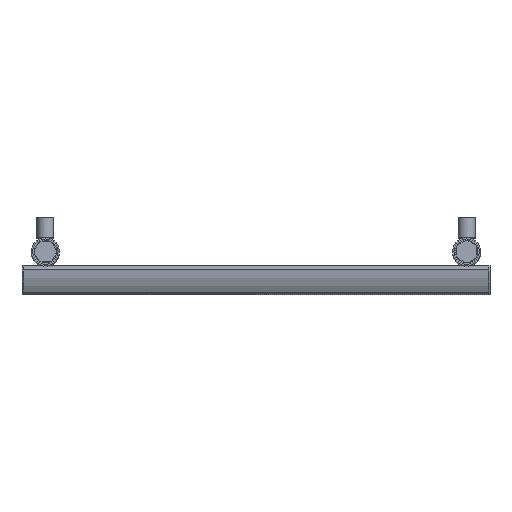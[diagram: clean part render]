
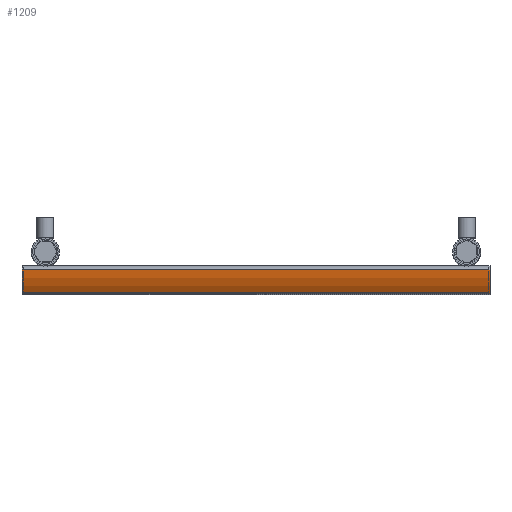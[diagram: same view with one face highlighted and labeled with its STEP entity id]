
A CAD part, top view. The second image highlights one B-rep face of the part: STEP entity #1209.
In plain terms, the highlighted cylindrical face has radius 51.638 mm (diameter 103.277 mm), a partial arc.
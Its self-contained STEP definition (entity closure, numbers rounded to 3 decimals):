
#127=LINE('',#3286,#161);
#128=LINE('',#3289,#162);
#161=VECTOR('',#1530,10.);
#162=VECTOR('',#1533,10.);
#398=FACE_OUTER_BOUND('',#525,.T.);
#525=EDGE_LOOP('',(#1016,#1017,#1018,#1019));
#575=CIRCLE('',#1331,51.638);
#576=CIRCLE('',#1332,51.638);
#680=VERTEX_POINT('',#3282);
#681=VERTEX_POINT('',#3283);
#682=VERTEX_POINT('',#3285);
#683=VERTEX_POINT('',#3287);
#801=EDGE_CURVE('',#680,#681,#575,.T.);
#802=EDGE_CURVE('',#680,#682,#127,.T.);
#803=EDGE_CURVE('',#683,#682,#576,.T.);
#804=EDGE_CURVE('',#681,#683,#128,.T.);
#1016=ORIENTED_EDGE('',*,*,#801,.F.);
#1017=ORIENTED_EDGE('',*,*,#802,.T.);
#1018=ORIENTED_EDGE('',*,*,#803,.F.);
#1019=ORIENTED_EDGE('',*,*,#804,.F.);
#1166=CYLINDRICAL_SURFACE('',#1330,51.638);
#1209=ADVANCED_FACE('',(#398),#1166,.T.);
#1330=AXIS2_PLACEMENT_3D('',#3281,#1526,#1527);
#1331=AXIS2_PLACEMENT_3D('',#3284,#1528,#1529);
#1332=AXIS2_PLACEMENT_3D('',#3288,#1531,#1532);
#1526=DIRECTION('center_axis',(0.,0.,-1.));
#1527=DIRECTION('ref_axis',(0.837,-0.547,0.));
#1528=DIRECTION('center_axis',(0.,0.,1.));
#1529=DIRECTION('ref_axis',(0.837,-0.547,0.));
#1530=DIRECTION('',(0.,0.,-1.));
#1531=DIRECTION('center_axis',(0.,0.,-1.));
#1532=DIRECTION('ref_axis',(0.837,-0.547,0.));
#1533=DIRECTION('',(0.,0.,-1.));
#3281=CARTESIAN_POINT('Origin',(-41.424,-0.617,0.));
#3282=CARTESIAN_POINT('',(1.804,-28.863,0.));
#3283=CARTESIAN_POINT('',(10.063,-4.573,0.));
#3284=CARTESIAN_POINT('Origin',(-41.424,-0.617,0.));
#3285=CARTESIAN_POINT('',(1.804,-28.863,-500.));
#3286=CARTESIAN_POINT('',(1.804,-28.863,0.));
#3287=CARTESIAN_POINT('',(10.063,-4.573,-500.));
#3288=CARTESIAN_POINT('Origin',(-41.424,-0.617,-500.));
#3289=CARTESIAN_POINT('',(10.063,-4.573,0.));
